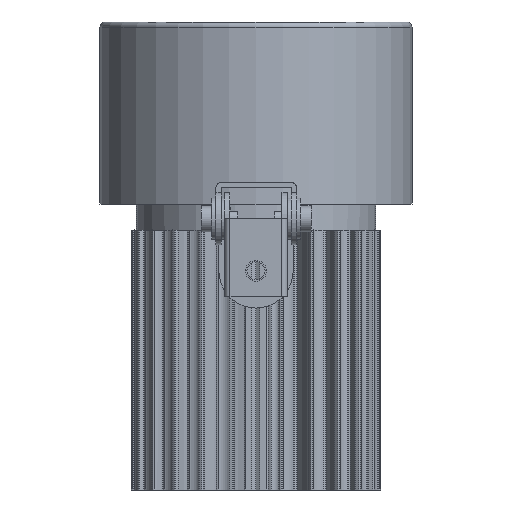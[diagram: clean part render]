
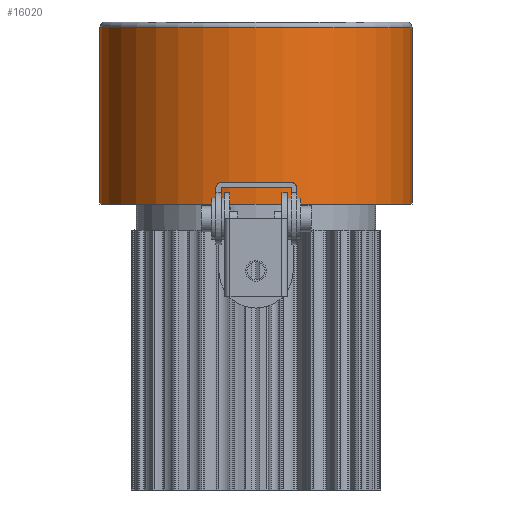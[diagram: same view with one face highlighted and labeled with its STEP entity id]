
A CAD part, front view. The second image highlights one B-rep face of the part: STEP entity #16020.
In plain terms, the highlighted cylindrical face has radius 30 mm (diameter 60 mm), a full revolution.
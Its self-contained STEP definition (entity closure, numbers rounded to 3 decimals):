
#666=LINE('',#30403,#1763);
#1763=VECTOR('',#20501,30.);
#2689=CYLINDRICAL_SURFACE('',#17397,30.);
#3480=FACE_OUTER_BOUND('',#4438,.T.);
#4438=EDGE_LOOP('',(#12108,#12109,#12110,#12111,#12112));
#5534=CIRCLE('',#17398,30.);
#5535=CIRCLE('',#17399,30.);
#5536=CIRCLE('',#17400,30.);
#6828=VERTEX_POINT('',#30400);
#6829=VERTEX_POINT('',#30402);
#6830=VERTEX_POINT('',#30404);
#8771=EDGE_CURVE('',#6828,#6828,#5534,.T.);
#8772=EDGE_CURVE('',#6828,#6829,#666,.T.);
#8773=EDGE_CURVE('',#6829,#6830,#5535,.T.);
#8774=EDGE_CURVE('',#6830,#6829,#5536,.T.);
#12108=ORIENTED_EDGE('',*,*,#8771,.F.);
#12109=ORIENTED_EDGE('',*,*,#8772,.T.);
#12110=ORIENTED_EDGE('',*,*,#8773,.T.);
#12111=ORIENTED_EDGE('',*,*,#8774,.T.);
#12112=ORIENTED_EDGE('',*,*,#8772,.F.);
#16020=ADVANCED_FACE('',(#3480),#2689,.T.);
#17397=AXIS2_PLACEMENT_3D('',#30399,#20497,#20498);
#17398=AXIS2_PLACEMENT_3D('',#30401,#20499,#20500);
#17399=AXIS2_PLACEMENT_3D('',#30405,#20502,#20503);
#17400=AXIS2_PLACEMENT_3D('',#30406,#20504,#20505);
#20497=DIRECTION('center_axis',(0.,0.,-1.));
#20498=DIRECTION('ref_axis',(0.,1.,0.));
#20499=DIRECTION('center_axis',(0.,0.,-1.));
#20500=DIRECTION('ref_axis',(1.,0.,0.));
#20501=DIRECTION('',(0.,0.,1.));
#20502=DIRECTION('center_axis',(0.,0.,-1.));
#20503=DIRECTION('ref_axis',(1.,0.,0.));
#20504=DIRECTION('center_axis',(0.,0.,-1.));
#20505=DIRECTION('ref_axis',(1.,0.,0.));
#30399=CARTESIAN_POINT('Origin',(0.,0.,
-398.));
#30400=CARTESIAN_POINT('',(0.,-30.,-415.));
#30401=CARTESIAN_POINT('Origin',(0.,0.,
-415.));
#30402=CARTESIAN_POINT('',(0.,-30.,-381.));
#30403=CARTESIAN_POINT('',(0.,-30.,-398.));
#30404=CARTESIAN_POINT('',(30.,0.,-381.));
#30405=CARTESIAN_POINT('Origin',(0.,0.,
-381.));
#30406=CARTESIAN_POINT('Origin',(0.,0.,
-381.));
